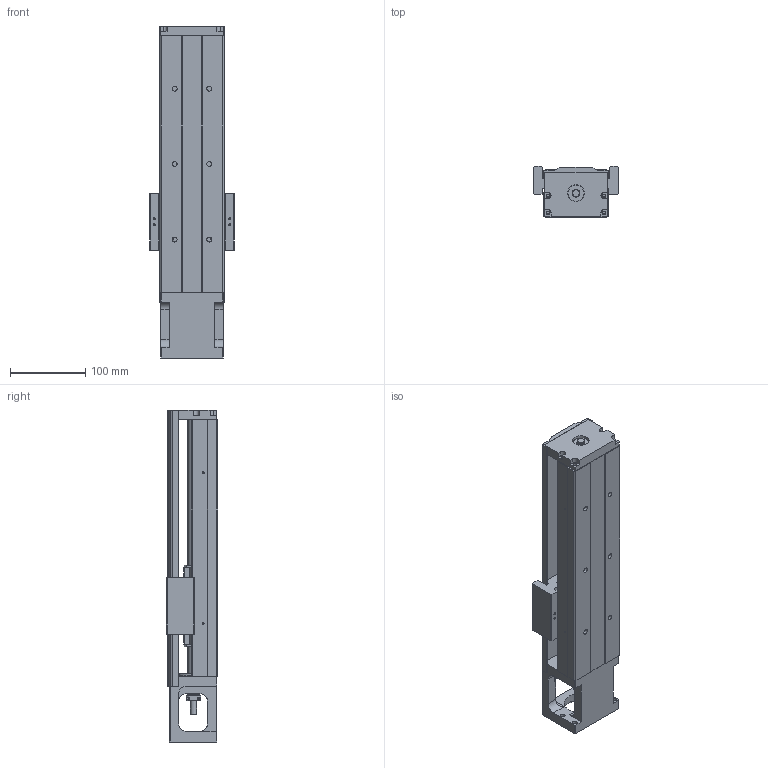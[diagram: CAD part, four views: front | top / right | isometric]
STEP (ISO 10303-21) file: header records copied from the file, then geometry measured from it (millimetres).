
FILE_DESCRIPTION(/* description */ (''),/* implementation_level */ '2;1');
FILE_NAME(/* name */ 'KP46N-340-C.stp',/* time_stamp */ '2020-06-05T09:48:36+08:00',/* author */ (''),/* organization */ (''),/* preprocessor_version */ 'ST-DEVELOPER v14',/* originating_system */ 'SIEMENS PLM Software NX 8.0',/* authorisation */ '');
FILE_SCHEMA (('AUTOMOTIVE_DESIGN { 1 0 10303 214 3 1 1 1 }'));
Products named in the file (1): model1
Bounding box: 112 x 68 x 440 mm (x, y, z)
Volume: 2391680.4 mm3; surface area: 536730.7 mm2
Topology: 12 solids, 28 shells, 1256 faces, 3297 edges, 2173 vertices
Faces by surface type: plane 614, cylinder 452, cone 104, bspline 70, torus 16
Full cylindrical faces by diameter (mm): 2.11 x8, 2.15 x8, 2.42 x16, 2.5 x4, 3 x12, 3.2 x8, 3.3 x20, 3.4 x16, 4 x4, 4.2 x8, 4.5 x16, 5 x24, 6 x16, 6.35 x4, 6.6 x12, 8 x2, 9.6 x2, 10 x6, 11 x12, 12 x2, 14.95 x4, 15 x2, 16 x4, 22 x6, 27.5 x2, 44 x2, 50 x2
Entity records: 59054 total; most frequent: CARTESIAN_POINT 24683, ORIENTED_EDGE 5714, DIRECTION 5646, EDGE_CURVE 2857, AXIS2_PLACEMENT_3D 2058, VERTEX_POINT 2047, EDGE_LOOP 1758, LINE 1530
